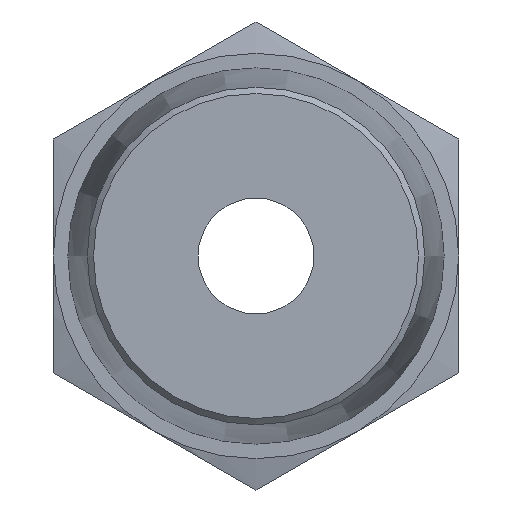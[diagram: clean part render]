
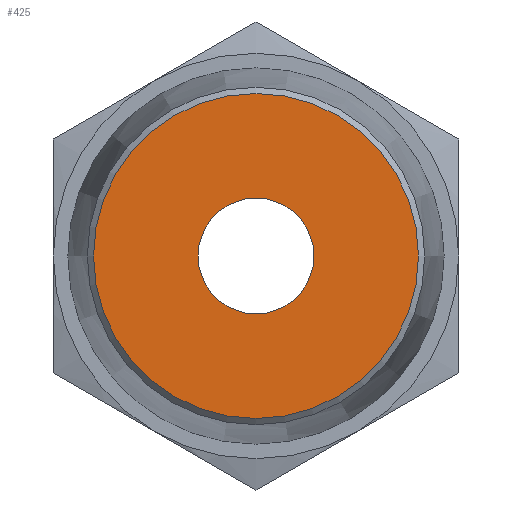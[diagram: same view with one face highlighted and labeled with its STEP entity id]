
A CAD part, front view. The second image highlights one B-rep face of the part: STEP entity #425.
In plain terms, the highlighted planar face has unit normal (0, -1, 0).
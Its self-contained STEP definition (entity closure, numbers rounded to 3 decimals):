
#43=FACE_BOUND('',#95,.T.);
#49=PLANE('',#483);
#63=FACE_OUTER_BOUND('',#94,.T.);
#94=EDGE_LOOP('',(#292));
#95=EDGE_LOOP('',(#293));
#157=CIRCLE('',#480,5.613);
#159=CIRCLE('',#484,2.);
#183=VERTEX_POINT('',#669);
#185=VERTEX_POINT('',#677);
#222=EDGE_CURVE('',#183,#183,#157,.T.);
#225=EDGE_CURVE('',#185,#185,#159,.T.);
#292=ORIENTED_EDGE('',*,*,#222,.F.);
#293=ORIENTED_EDGE('',*,*,#225,.T.);
#425=ADVANCED_FACE('',(#63,#43),#49,.T.);
#480=AXIS2_PLACEMENT_3D('',#671,#543,#544);
#483=AXIS2_PLACEMENT_3D('',#676,#550,#551);
#484=AXIS2_PLACEMENT_3D('',#678,#552,#553);
#543=DIRECTION('center_axis',(0.,1.,0.));
#544=DIRECTION('ref_axis',(-1.,0.,0.));
#550=DIRECTION('center_axis',(0.,-1.,0.));
#551=DIRECTION('ref_axis',(0.,0.,-1.));
#552=DIRECTION('center_axis',(0.,1.,0.));
#553=DIRECTION('ref_axis',(1.,0.,0.));
#669=CARTESIAN_POINT('',(5.613,-9.5,0.));
#671=CARTESIAN_POINT('Origin',(0.,-9.5,0.));
#676=CARTESIAN_POINT('Origin',(5.813,-9.5,0.));
#677=CARTESIAN_POINT('',(-2.,-9.5,0.));
#678=CARTESIAN_POINT('Origin',(0.,-9.5,0.));
